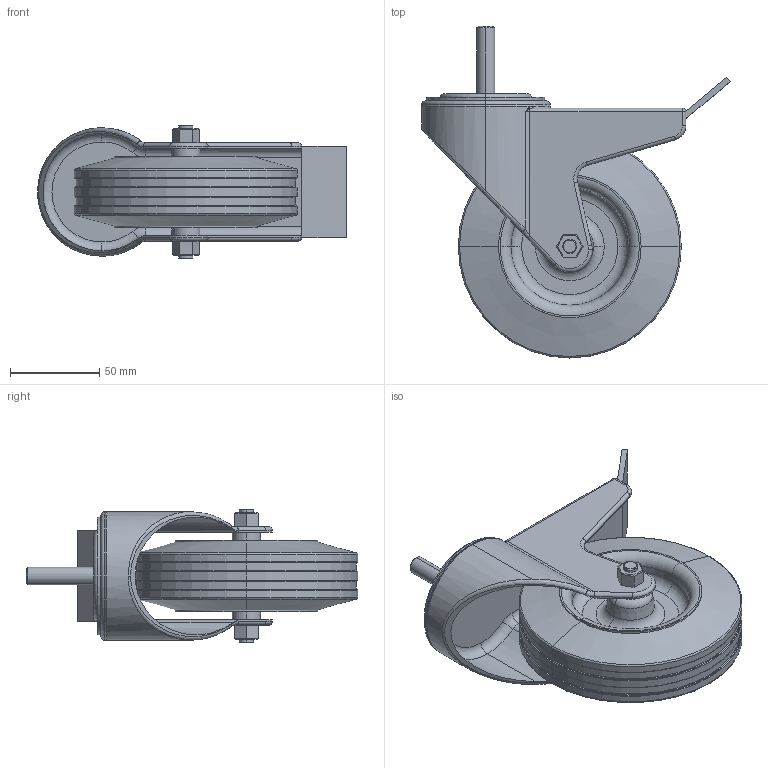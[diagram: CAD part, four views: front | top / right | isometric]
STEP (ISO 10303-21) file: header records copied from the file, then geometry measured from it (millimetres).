
FILE_DESCRIPTION (( 'STEP AP214' ), '1' );
FILE_NAME ('A49 125 M10.step', '2017-04-05T07:53:09', ( '' ), ( '' ), 'SwSTEP 2.0', 'SolidWorks 2015', '' );
FILE_SCHEMA (( 'AUTOMOTIVE_DESIGN' ));
Length unit declared in the file: millimetre
Products named in the file (1): A49 125 M10
Bounding box: 172.97 x 185.97 x 75 mm (x, y, z)
Volume: 458886.7 mm3; surface area: 92569.8 mm2
Topology: 1 solids, 1 shells, 209 faces, 458 edges, 266 vertices
Faces by surface type: cylinder 63, plane 62, torus 60, cone 14, bspline 8, sphere 2
Entity records: 6368 total; most frequent: CARTESIAN_POINT 1237, DIRECTION 1085, ORIENTED_EDGE 908, EDGE_CURVE 454, AXIS2_PLACEMENT_3D 454, VERTEX_POINT 266, CIRCLE 252, EDGE_LOOP 230
